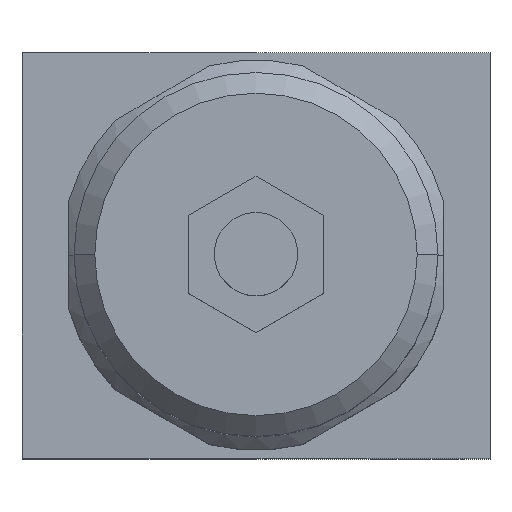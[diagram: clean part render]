
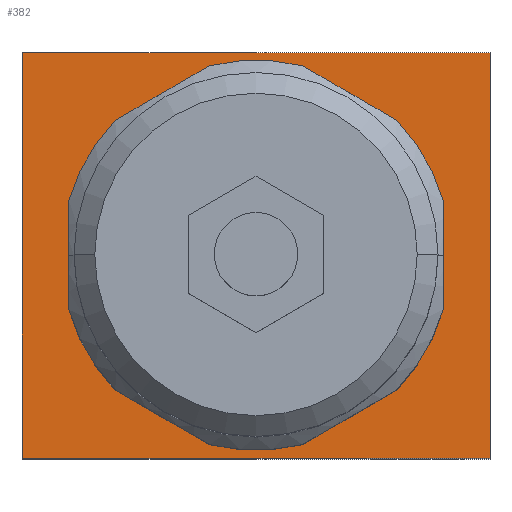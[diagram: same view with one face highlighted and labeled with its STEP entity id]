
A CAD part, top view. The second image highlights one B-rep face of the part: STEP entity #382.
In plain terms, the highlighted planar face has unit normal (0, 0, 1).
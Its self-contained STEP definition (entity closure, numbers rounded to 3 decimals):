
#114=FACE_BOUND('',#553,.T.);
#115=FACE_BOUND('',#554,.T.);
#215=LINE('',#1982,#295);
#219=LINE('',#1998,#299);
#220=LINE('',#2000,#300);
#221=LINE('',#2002,#301);
#295=VECTOR('',#1550,1.);
#299=VECTOR('',#1564,1.);
#300=VECTOR('',#1567,1.);
#301=VECTOR('',#1570,1.);
#382=ADVANCED_FACE('',(#114,#115),#436,.T.);
#436=PLANE('',#1370);
#553=EDGE_LOOP('',(#752,#753,#754,#755));
#554=EDGE_LOOP('',(#756,#757));
#752=ORIENTED_EDGE('',*,*,#1139,.F.);
#753=ORIENTED_EDGE('',*,*,#1137,.F.);
#754=ORIENTED_EDGE('',*,*,#1138,.T.);
#755=ORIENTED_EDGE('',*,*,#1129,.T.);
#756=ORIENTED_EDGE('',*,*,#1151,.F.);
#757=ORIENTED_EDGE('',*,*,#1152,.F.);
#996=VERTEX_POINT('',#1981);
#997=VERTEX_POINT('',#1983);
#1002=VERTEX_POINT('',#1995);
#1003=VERTEX_POINT('',#1997);
#1008=VERTEX_POINT('',#2026);
#1009=VERTEX_POINT('',#2027);
#1129=EDGE_CURVE('',#997,#996,#215,.T.);
#1137=EDGE_CURVE('',#1003,#1002,#219,.T.);
#1138=EDGE_CURVE('',#1003,#997,#220,.T.);
#1139=EDGE_CURVE('',#1002,#996,#221,.T.);
#1151=EDGE_CURVE('',#1008,#1009,#1275,.T.);
#1152=EDGE_CURVE('',#1009,#1008,#1276,.T.);
#1275=CIRCLE('',#1368,17.9);
#1276=CIRCLE('',#1369,17.9);
#1368=AXIS2_PLACEMENT_3D('',#2025,#1599,#1600);
#1369=AXIS2_PLACEMENT_3D('',#2028,#1601,#1602);
#1370=AXIS2_PLACEMENT_3D('',#2029,#1603,#1604);
#1550=DIRECTION('',(1.,0.,0.));
#1564=DIRECTION('',(1.,0.,0.));
#1567=DIRECTION('',(0.,-1.,0.));
#1570=DIRECTION('',(0.,-1.,0.));
#1599=DIRECTION('',(0.,0.,1.));
#1600=DIRECTION('',(1.,0.,0.));
#1601=DIRECTION('',(0.,0.,1.));
#1602=DIRECTION('',(1.,0.,0.));
#1603=DIRECTION('',(0.,0.,1.));
#1604=DIRECTION('',(-1.,0.,0.));
#1981=CARTESIAN_POINT('',(22.5,-19.5,68.));
#1982=CARTESIAN_POINT('',(-22.5,-19.5,68.));
#1983=CARTESIAN_POINT('',(-22.5,-19.5,68.));
#1995=CARTESIAN_POINT('',(22.5,19.5,68.));
#1997=CARTESIAN_POINT('',(-22.5,19.5,68.));
#1998=CARTESIAN_POINT('',(-22.5,19.5,68.));
#2000=CARTESIAN_POINT('',(-22.5,19.5,68.));
#2002=CARTESIAN_POINT('',(22.5,19.5,68.));
#2025=CARTESIAN_POINT('',(0.,0.,68.));
#2026=CARTESIAN_POINT('',(17.9,0.,68.));
#2027=CARTESIAN_POINT('',(-17.9,0.,68.));
#2028=CARTESIAN_POINT('',(0.,0.,68.));
#2029=CARTESIAN_POINT('',(-22.5,19.5,68.));
